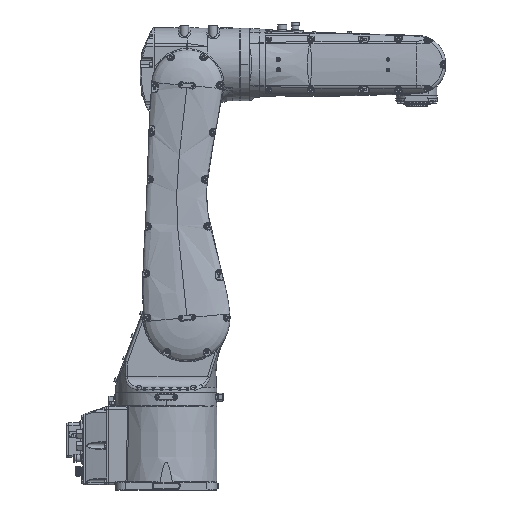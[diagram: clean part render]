
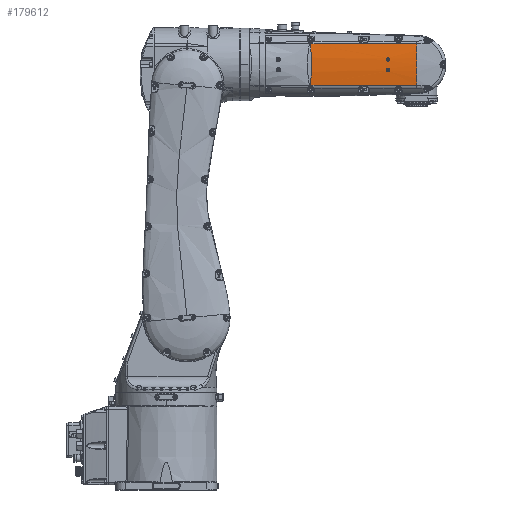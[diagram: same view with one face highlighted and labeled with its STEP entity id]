
A CAD part, front view. The second image highlights one B-rep face of the part: STEP entity #179612.
In plain terms, the highlighted cylindrical face has radius 316.1 mm (diameter 632.2 mm), a partial arc.
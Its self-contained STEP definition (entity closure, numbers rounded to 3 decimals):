
#139434=CARTESIAN_POINT('',(480.,257.1,815.));
#139435=DIRECTION('',(-1.,0.,0.));
#139436=DIRECTION('',(0.,-0.992,
-0.126));
#139437=AXIS2_PLACEMENT_3D('',#139434,#139435,#139436);
#139439=CARTESIAN_POINT('',(480.,257.1,815.));
#139440=DIRECTION('',(-1.,0.,0.));
#139441=DIRECTION('',(0.,-1.,0.));
#139442=AXIS2_PLACEMENT_3D('',#139439,#139440,#139441);
#146900=DIRECTION('',(-1.,0.,0.));
#146901=VECTOR('',#146900,204.416);
#146902=CARTESIAN_POINT('',(480.,-56.471,854.905));
#146903=LINE('',#146902,#146901);
#147748=DIRECTION('',(1.,0.,0.));
#147749=VECTOR('',#147748,204.416);
#147750=CARTESIAN_POINT('',(275.584,-56.471,
775.095));
#147751=LINE('',#147750,#147749);
#149279=CARTESIAN_POINT('',(275.584,-56.471,
854.905));
#149281=CARTESIAN_POINT('',(275.584,-56.471,
854.905));
#149282=CARTESIAN_POINT('',(276.423,-56.998,
850.762));
#149283=CARTESIAN_POINT('',(277.852,-57.914,
842.273));
#149284=CARTESIAN_POINT('',(279.211,-58.802,
828.708));
#149285=CARTESIAN_POINT('',(279.67,-59.099,
814.992));
#149286=CARTESIAN_POINT('',(279.21,-58.802,
801.282));
#149287=CARTESIAN_POINT('',(277.85,-57.913,
787.716));
#149288=CARTESIAN_POINT('',(276.422,-56.998,
779.234));
#149289=CARTESIAN_POINT('',(275.584,-56.471,
775.095));
#149896=CARTESIAN_POINT('',(480.,-56.471,775.095));
#149946=CARTESIAN_POINT('',(421.75,-58.842,825.));
#149947=CARTESIAN_POINT('',(421.75,-58.83,825.372));
#149948=CARTESIAN_POINT('',(421.878,-58.805,
826.121));
#149949=CARTESIAN_POINT('',(422.458,-58.768,
827.133));
#149950=CARTESIAN_POINT('',(423.345,-58.738,
827.874));
#149951=CARTESIAN_POINT('',(424.427,-58.721,
828.267));
#149952=CARTESIAN_POINT('',(425.581,-58.722,
828.266));
#149953=CARTESIAN_POINT('',(426.664,-58.738,
827.869));
#149954=CARTESIAN_POINT('',(427.547,-58.768,
827.126));
#149955=CARTESIAN_POINT('',(428.124,-58.805,
826.113));
#149956=CARTESIAN_POINT('',(428.25,-58.83,825.369));
#149957=CARTESIAN_POINT('',(428.25,-58.842,825.));
#149963=CARTESIAN_POINT('',(428.25,-58.842,825.));
#149964=CARTESIAN_POINT('',(428.25,-58.854,824.628));
#149965=CARTESIAN_POINT('',(428.122,-58.876,
823.879));
#149966=CARTESIAN_POINT('',(427.542,-58.902,
822.867));
#149967=CARTESIAN_POINT('',(426.656,-58.92,
822.126));
#149968=CARTESIAN_POINT('',(425.573,-58.928,
821.733));
#149969=CARTESIAN_POINT('',(424.42,-58.928,
821.734));
#149970=CARTESIAN_POINT('',(423.336,-58.92,822.131));
#149971=CARTESIAN_POINT('',(422.452,-58.902,
822.874));
#149972=CARTESIAN_POINT('',(421.876,-58.876,
823.887));
#149973=CARTESIAN_POINT('',(421.75,-58.853,824.631));
#149974=CARTESIAN_POINT('',(421.75,-58.842,825.));
#150026=CARTESIAN_POINT('',(421.75,-58.842,805.));
#150027=CARTESIAN_POINT('',(421.75,-58.854,805.372));
#150028=CARTESIAN_POINT('',(421.878,-58.876,
806.121));
#150029=CARTESIAN_POINT('',(422.458,-58.902,
807.133));
#150030=CARTESIAN_POINT('',(423.344,-58.92,
807.874));
#150031=CARTESIAN_POINT('',(424.427,-58.928,
808.267));
#150032=CARTESIAN_POINT('',(425.58,-58.928,
808.266));
#150033=CARTESIAN_POINT('',(426.664,-58.92,
807.869));
#150034=CARTESIAN_POINT('',(427.548,-58.902,
807.126));
#150035=CARTESIAN_POINT('',(428.124,-58.876,
806.113));
#150036=CARTESIAN_POINT('',(428.25,-58.853,805.369));
#150037=CARTESIAN_POINT('',(428.25,-58.842,805.));
#150043=CARTESIAN_POINT('',(428.25,-58.842,805.));
#150044=CARTESIAN_POINT('',(428.25,-58.83,804.628));
#150045=CARTESIAN_POINT('',(428.122,-58.805,
803.879));
#150046=CARTESIAN_POINT('',(427.542,-58.768,
802.867));
#150047=CARTESIAN_POINT('',(426.655,-58.738,
802.126));
#150048=CARTESIAN_POINT('',(425.573,-58.721,
801.733));
#150049=CARTESIAN_POINT('',(424.419,-58.722,
801.734));
#150050=CARTESIAN_POINT('',(423.336,-58.738,
802.131));
#150051=CARTESIAN_POINT('',(422.453,-58.768,
802.874));
#150052=CARTESIAN_POINT('',(421.876,-58.805,
803.887));
#150053=CARTESIAN_POINT('',(421.75,-58.83,804.631));
#150054=CARTESIAN_POINT('',(421.75,-58.842,805.));
#157145=VERTEX_POINT('',#149279);
#157146=VERTEX_POINT('',#149289);
#157301=VERTEX_POINT('',#149896);
#157302=CARTESIAN_POINT('',(480.,-59.,815.));
#157303=VERTEX_POINT('',#157302);
#157304=CARTESIAN_POINT('',(480.,-56.471,854.905));
#157305=VERTEX_POINT('',#157304);
#157566=VERTEX_POINT('',#149946);
#157567=VERTEX_POINT('',#149957);
#157568=VERTEX_POINT('',#150026);
#157569=VERTEX_POINT('',#150037);
#179586=CARTESIAN_POINT('',(480.,257.1,815.));
#179587=DIRECTION('',(1.,0.,0.));
#179588=DIRECTION('',(0.,0.,1.));
#179589=AXIS2_PLACEMENT_3D('',#179586,#179587,#179588);
#179590=CYLINDRICAL_SURFACE('',#179589,316.1);
#179591=ORIENTED_EDGE('',*,*,#177861,.F.);
#179592=ORIENTED_EDGE('',*,*,#163449,.F.);
#179593=ORIENTED_EDGE('',*,*,#163447,.F.);
#179595=ORIENTED_EDGE('',*,*,#179594,.F.);
#179597=ORIENTED_EDGE('',*,*,#179596,.F.);
#179598=EDGE_LOOP('',(#179591,#179592,#179593,#179595,#179597));
#179599=FACE_OUTER_BOUND('',#179598,.F.);
#179601=ORIENTED_EDGE('',*,*,#179600,.F.);
#179603=ORIENTED_EDGE('',*,*,#179602,.F.);
#179604=EDGE_LOOP('',(#179601,#179603));
#179605=FACE_BOUND('',#179604,.F.);
#179607=ORIENTED_EDGE('',*,*,#179606,.F.);
#179609=ORIENTED_EDGE('',*,*,#179608,.F.);
#179610=EDGE_LOOP('',(#179607,#179609));
#179611=FACE_BOUND('',#179610,.F.);
#179612=ADVANCED_FACE('',(#179599,#179605,#179611),#179590,.T.);
#139438=CIRCLE('',#139437,316.1);
#139443=CIRCLE('',#139442,316.1);
#149290=B_SPLINE_CURVE_WITH_KNOTS('',3,(#149281,#149282,#149283,#149284,#149285,
#149286,#149287,#149288,#149289),.UNSPECIFIED.,.F.,.F.,(4,1,1,1,1,1,4),(0.,
0.167,0.333,0.5,0.667,0.833,
1.),.UNSPECIFIED.);
#149958=B_SPLINE_CURVE_WITH_KNOTS('',3,(#149946,#149947,#149948,#149949,#149950,
#149951,#149952,#149953,#149954,#149955,#149956,#149957),.UNSPECIFIED.,.F.,.F.,(
4,1,1,1,1,1,1,1,1,4),(0.,0.111,0.222,
0.333,0.444,0.556,0.667,
0.778,0.889,1.),.UNSPECIFIED.);
#149975=B_SPLINE_CURVE_WITH_KNOTS('',3,(#149963,#149964,#149965,#149966,#149967,
#149968,#149969,#149970,#149971,#149972,#149973,#149974),.UNSPECIFIED.,.F.,.F.,(
4,1,1,1,1,1,1,1,1,4),(0.,0.111,0.222,
0.333,0.444,0.556,0.667,
0.778,0.889,1.),.UNSPECIFIED.);
#150038=B_SPLINE_CURVE_WITH_KNOTS('',3,(#150026,#150027,#150028,#150029,#150030,
#150031,#150032,#150033,#150034,#150035,#150036,#150037),.UNSPECIFIED.,.F.,.F.,(
4,1,1,1,1,1,1,1,1,4),(0.,0.111,0.222,
0.333,0.444,0.556,0.667,
0.778,0.889,1.),.UNSPECIFIED.);
#150055=B_SPLINE_CURVE_WITH_KNOTS('',3,(#150043,#150044,#150045,#150046,#150047,
#150048,#150049,#150050,#150051,#150052,#150053,#150054),.UNSPECIFIED.,.F.,.F.,(
4,1,1,1,1,1,1,1,1,4),(0.,0.111,0.222,
0.333,0.444,0.556,0.667,
0.778,0.889,1.),.UNSPECIFIED.);
#163447=EDGE_CURVE('',#157301,#157303,#139438,.T.);
#163449=EDGE_CURVE('',#157303,#157305,#139443,.T.);
#177861=EDGE_CURVE('',#157305,#157145,#146903,.T.);
#179594=EDGE_CURVE('',#157146,#157301,#147751,.T.);
#179596=EDGE_CURVE('',#157145,#157146,#149290,.T.);
#179600=EDGE_CURVE('',#157566,#157567,#149958,.T.);
#179602=EDGE_CURVE('',#157567,#157566,#149975,.T.);
#179606=EDGE_CURVE('',#157568,#157569,#150038,.T.);
#179608=EDGE_CURVE('',#157569,#157568,#150055,.T.);
